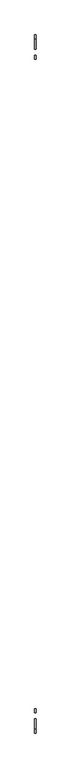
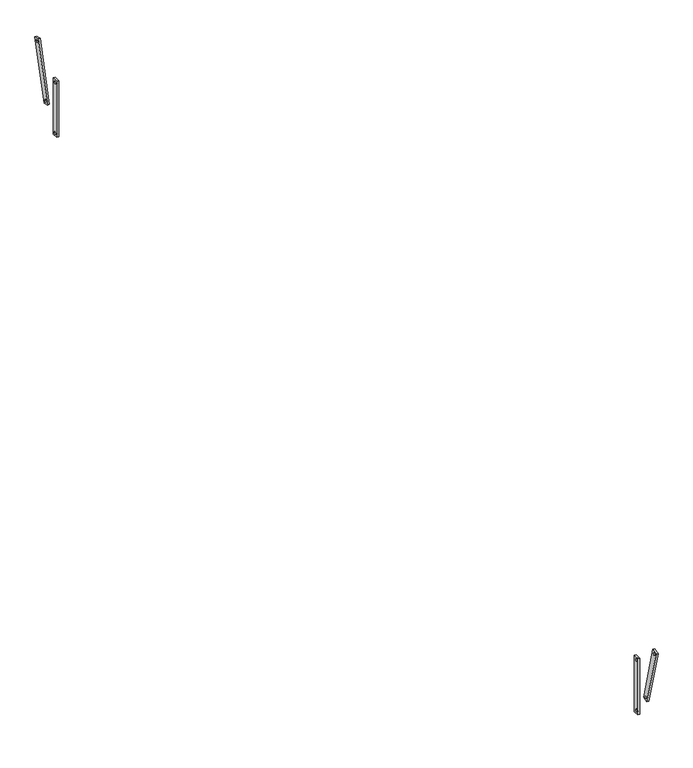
"""IFC4 building model written with IfcOpenShell, lengths in millimetres: proxy geometry, Modelos genéricos 286 : Modelos genéricos 278."""

from ifc_helpers import new_model, si_unit, point, frame, frame_2d, origin, place, context, project, spatial, polyline, circle_curve, trimmed, segment, composite_curve, outline, extrude, source, transform, mapped, element, save


def generic_models_126143ee(model_context):
    return source(origin(), model_context, "Body", "SweptSolid", [
        extrude(outline(polyline([(5318.6238165, 2800.0), (5318.6238165, 3200.0), (5358.6238165, 3200.0), (5358.6238165, 2800.0), (5318.6238165, 2800.0)]), holes=[composite_curve([segment(trimmed(circle_curve(frame_2d((5338.6238165, 3180.0)), 7.5), [point((5346.1238165, 3180.0))], [point((5331.1238165, 3180.0))], True, "CARTESIAN"), True, "CONTINUOUS"), segment(trimmed(circle_curve(frame_2d((5338.6238165, 3180.0)), 7.5), [point((5331.1238165, 3180.0))], [point((5346.1238165, 3180.0))], True, "CARTESIAN"), True, "CONTINUOUS")], self_intersect=False), composite_curve([segment(trimmed(circle_curve(frame_2d((5338.6238165, 2820.0)), 7.5), [point((5346.1238165, 2820.0))], [point((5331.1238165, 2820.0))], True, "CARTESIAN"), True, "CONTINUOUS"), segment(trimmed(circle_curve(frame_2d((5338.6238165, 2820.0)), 7.5), [point((5331.1238165, 2820.0))], [point((5346.1238165, 2820.0))], True, "CARTESIAN"), True, "CONTINUOUS")], self_intersect=False)]), frame((1910.7472467, 0.0, 0.0), z_axis=(1.0, 0.0, 0.0), x_axis=(0.0, 1.0, 0.0)), (0.0, 0.0, 1.0), 12.7),
        extrude(outline(polyline([(5424.7907615, 2966.5419368), (5533.4947604, 3372.2307838), (5572.1317934, 3361.878022), (5463.4277945, 2956.1891749), (5424.7907615, 2966.5419368)]), holes=[composite_curve([segment(trimmed(circle_curve(frame_2d((5547.636896, 3347.7358864)), 7.5), [point((5554.8813397, 3345.7947435))], [point((5540.3924523, 3349.6770292))], True, "CARTESIAN"), True, "CONTINUOUS"), segment(trimmed(circle_curve(frame_2d((5547.636896, 3347.7358864)), 7.5), [point((5540.3924523, 3349.6770292))], [point((5554.8813397, 3345.7947435))], True, "CARTESIAN"), True, "CONTINUOUS")], self_intersect=False), composite_curve([segment(trimmed(circle_curve(frame_2d((5449.2856589, 2980.6840724)), 7.5), [point((5456.5301026, 2978.7429295))], [point((5442.0412152, 2982.6252152))], True, "CARTESIAN"), True, "CONTINUOUS"), segment(trimmed(circle_curve(frame_2d((5449.2856589, 2980.6840724)), 7.5), [point((5442.0412152, 2982.6252152))], [point((5456.5301026, 2978.7429295))], True, "CARTESIAN"), True, "CONTINUOUS")], self_intersect=False)]), frame((1910.7472467, 0.0, 0.0), z_axis=(1.0, 0.0, 0.0), x_axis=(0.0, 1.0, 0.0)), (0.0, 0.0, 1.0), 12.7),
        extrude(outline(polyline([(-1421.3761835, 2800.0), (-1461.3761835, 2800.0), (-1461.3761835, 3200.0), (-1421.3761835, 3200.0), (-1421.3761835, 2800.0)]), holes=[composite_curve([segment(trimmed(circle_curve(frame_2d((-1441.3761835, 3180.0)), 7.5), [point((-1448.8761835, 3180.0))], [point((-1433.8761835, 3180.0))], True, "CARTESIAN"), True, "CONTINUOUS"), segment(trimmed(circle_curve(frame_2d((-1441.3761835, 3180.0)), 7.5), [point((-1433.8761835, 3180.0))], [point((-1448.8761835, 3180.0))], True, "CARTESIAN"), True, "CONTINUOUS")], self_intersect=False), composite_curve([segment(trimmed(circle_curve(frame_2d((-1441.3761835, 2820.0)), 7.5), [point((-1448.8761835, 2820.0))], [point((-1433.8761835, 2820.0))], True, "CARTESIAN"), True, "CONTINUOUS"), segment(trimmed(circle_curve(frame_2d((-1441.3761835, 2820.0)), 7.5), [point((-1433.8761835, 2820.0))], [point((-1448.8761835, 2820.0))], True, "CARTESIAN"), True, "CONTINUOUS")], self_intersect=False)]), frame((1910.7472467, 0.0, 0.0), z_axis=(1.0, 0.0, 0.0), x_axis=(0.0, 1.0, 0.0)), (0.0, 0.0, 1.0), 12.7),
        extrude(outline(polyline([(-1527.5431285, 2966.5419368), (-1566.1801615, 2956.1891749), (-1674.8841605, 3361.878022), (-1636.2471274, 3372.2307838), (-1527.5431285, 2966.5419368)]), holes=[composite_curve([segment(trimmed(circle_curve(frame_2d((-1650.389263, 3347.7358864)), 7.5), [point((-1657.6337067, 3345.7947435))], [point((-1643.1448193, 3349.6770292))], True, "CARTESIAN"), True, "CONTINUOUS"), segment(trimmed(circle_curve(frame_2d((-1650.389263, 3347.7358864)), 7.5), [point((-1643.1448193, 3349.6770292))], [point((-1657.6337067, 3345.7947435))], True, "CARTESIAN"), True, "CONTINUOUS")], self_intersect=False), composite_curve([segment(trimmed(circle_curve(frame_2d((-1552.0380259, 2980.6840724)), 7.5), [point((-1559.2824696, 2978.7429295))], [point((-1544.7935822, 2982.6252152))], True, "CARTESIAN"), True, "CONTINUOUS"), segment(trimmed(circle_curve(frame_2d((-1552.0380259, 2980.6840724)), 7.5), [point((-1544.7935822, 2982.6252152))], [point((-1559.2824696, 2978.7429295))], True, "CARTESIAN"), True, "CONTINUOUS")], self_intersect=False)]), frame((1910.7472467, 0.0, 0.0), z_axis=(1.0, 0.0, 0.0), x_axis=(0.0, 1.0, 0.0)), (0.0, 0.0, 1.0), 12.7),
    ])


if __name__ == "__main__":
    model = new_model("IFC4")
    model_context = context("Model", 3, world=origin())
    ifc_project = project(units=[si_unit("LENGTHUNIT", "METRE", prefix="MILLI")], contexts=[model_context])
    site = spatial("IfcSite", under=ifc_project)
    building = spatial("IfcBuilding", under=site)
    placement = place(None, origin())
    generic_models_shape = generic_models_126143ee(model_context)
    element("IfcBuildingElementProxy", 1, Name="Modelos genéricos 286 : Modelos genéricos 278", ObjectType="Modelos genéricos 286 : Modelos genéricos 278", at=placement, inside=building, context=model_context, shape_type="MappedRepresentation", body=[
        mapped(generic_models_shape, transform((0.0, 0.0, 0.0), x_axis=(1.0, 0.0, 0.0), y_axis=(0.0, 1.0, 0.0), z_axis=(0.0, 0.0, 1.0))),
    ])
    save(model, "model.ifc")
